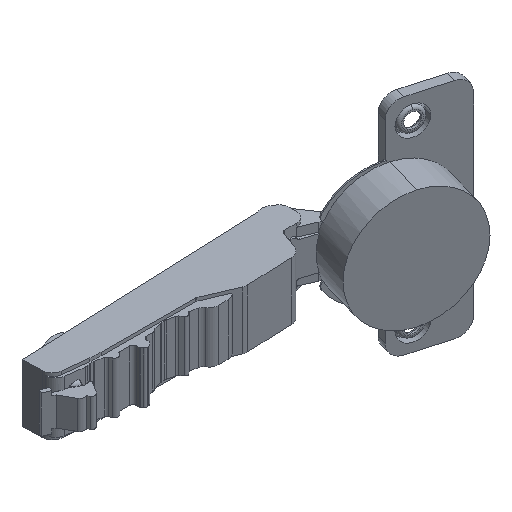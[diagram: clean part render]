
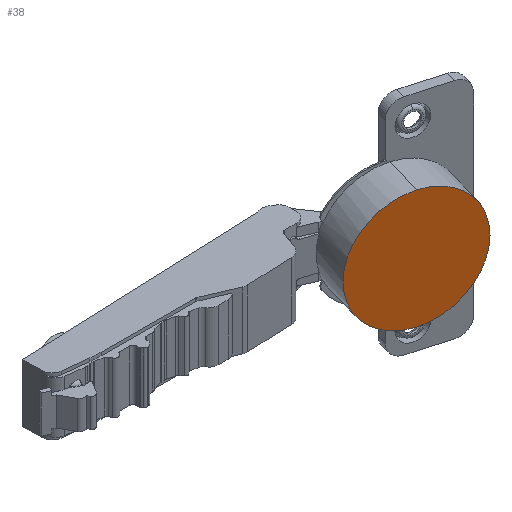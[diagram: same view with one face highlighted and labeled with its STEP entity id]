
A CAD part, isometric view. The second image highlights one B-rep face of the part: STEP entity #38.
In plain terms, the highlighted planar face has unit normal (-0.277, -0.961, 0).
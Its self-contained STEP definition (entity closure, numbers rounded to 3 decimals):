
#38 = ADVANCED_FACE ( 'NONE', ( #1809 ), #3775, .F. ) ;
#263 = ORIENTED_EDGE ( 'NONE', *, *, #5498, .T. ) ;
#339 = DIRECTION ( 'NONE',  ( 0.961, -0.276, 0. ) ) ;
#929 = AXIS2_PLACEMENT_3D ( 'NONE', #1565, #2005, #5674 ) ;
#958 = DIRECTION ( 'NONE',  ( -0.276, -0.961, 0. ) ) ;
#1024 = CIRCLE ( 'NONE', #2399, 17.4 ) ;
#1067 = CARTESIAN_POINT ( 'NONE',  ( 18.471, -22.875, 0. ) ) ;
#1304 = ORIENTED_EDGE ( 'NONE', *, *, #5992, .T. ) ;
#1565 = CARTESIAN_POINT ( 'NONE',  ( 29.011, -25.907, -7.7 ) ) ;
#1809 = FACE_OUTER_BOUND ( 'NONE', #2780, .T. ) ;
#2005 = DIRECTION ( 'NONE',  ( 0.276, 0.961, 0. ) ) ;
#2399 = AXIS2_PLACEMENT_3D ( 'NONE', #4160, #6014, #5933 ) ;
#2780 = EDGE_LOOP ( 'NONE', ( #1304, #263 ) ) ;
#2851 = VERTEX_POINT ( 'NONE', #3574 ) ;
#3056 = VERTEX_POINT ( 'NONE', #5698 ) ;
#3574 = CARTESIAN_POINT ( 'NONE',  ( 18.471, -22.875, -17.4 ) ) ;
#3775 = PLANE ( 'NONE',  #929 ) ;
#4160 = CARTESIAN_POINT ( 'NONE',  ( 18.471, -22.875, 0. ) ) ;
#5212 = CIRCLE ( 'NONE', #7459, 17.4 ) ;
#5498 = EDGE_CURVE ( 'NONE', #2851, #3056, #5212, .T. ) ;
#5674 = DIRECTION ( 'NONE',  ( 0., 0., 1. ) ) ;
#5698 = CARTESIAN_POINT ( 'NONE',  ( 18.471, -22.875, 17.4 ) ) ;
#5933 = DIRECTION ( 'NONE',  ( 0.961, -0.276, 0. ) ) ;
#5992 = EDGE_CURVE ( 'NONE', #3056, #2851, #1024, .T. ) ;
#6014 = DIRECTION ( 'NONE',  ( -0.276, -0.961, 0. ) ) ;
#7459 = AXIS2_PLACEMENT_3D ( 'NONE', #1067, #958, #339 ) ;
